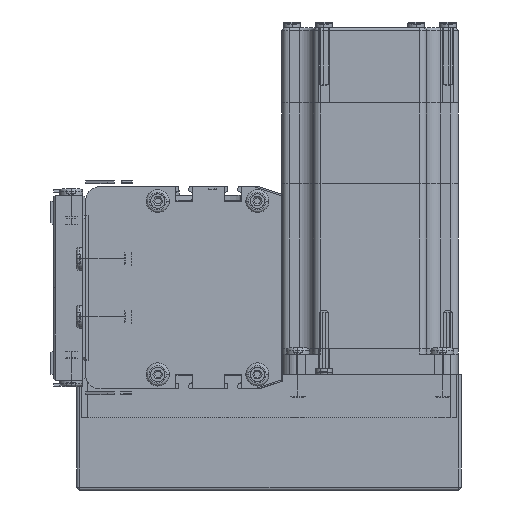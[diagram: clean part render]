
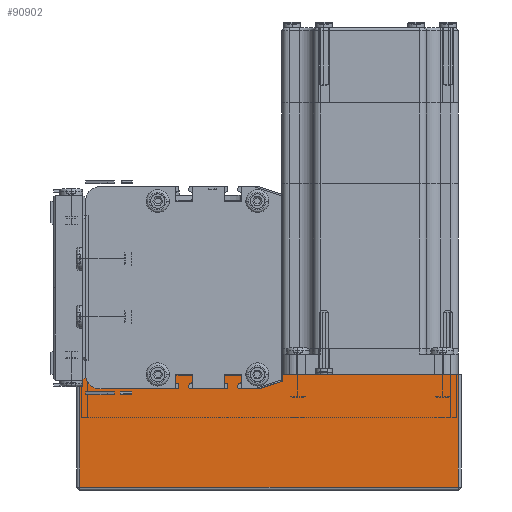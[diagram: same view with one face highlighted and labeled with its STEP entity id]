
A CAD part, left-side view. The second image highlights one B-rep face of the part: STEP entity #90902.
In plain terms, the highlighted planar face has unit normal (-1, 0, 0) as drawn and (0, 1, 0) by its records, which use the part's own axes.
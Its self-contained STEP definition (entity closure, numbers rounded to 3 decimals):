
#81000 = VERTEX_POINT ( 'NONE', #121553 ) ;
#82250 = VERTEX_POINT ( 'NONE', #122070 ) ;
#82780 = EDGE_CURVE ( 'NONE', #82250, #81000, #122357, .T. ) ;
#87593 = VERTEX_POINT ( 'NONE', #124137 ) ;
#88638 = EDGE_LOOP ( 'NONE', ( #90581, #90712, #91588, #91618 ) ) ;
#90294 = EDGE_CURVE ( 'NONE', #81000, #91045, #152079, .T. ) ;
#90302 = EDGE_CURVE ( 'NONE', #91045, #87593, #152094, .T. ) ;
#90555 = EDGE_CURVE ( 'NONE', #87593, #82250, #152123, .T. ) ;
#90581 = ORIENTED_EDGE ( 'NONE', *, *, #90302, .T. ) ;
#90712 = ORIENTED_EDGE ( 'NONE', *, *, #90555, .T. ) ;
#90902 = ADVANCED_FACE ( 'NONE', ( #152151 ), #152068, .F. ) ;
#91045 = VERTEX_POINT ( 'NONE', #152283 ) ;
#91588 = ORIENTED_EDGE ( 'NONE', *, *, #82780, .T. ) ;
#91618 = ORIENTED_EDGE ( 'NONE', *, *, #90294, .T. ) ;
#121553 = CARTESIAN_POINT ( 'NONE',  ( 1., 62., 0. ) ) ;
#122070 = CARTESIAN_POINT ( 'NONE',  ( 132., 62., 0. ) ) ;
#122354 = DIRECTION ( 'NONE',  ( -1., 0., 0. ) ) ;
#122355 = VECTOR ( 'NONE', #122354, 1000. ) ;
#122356 = CARTESIAN_POINT ( 'NONE',  ( 0., 62., 0. ) ) ;
#122357 = LINE ( 'NONE', #122356, #122355 ) ;
#124137 = CARTESIAN_POINT ( 'NONE',  ( 132., 62., 39. ) ) ;
#152068 = PLANE ( 'NONE',  #152140 ) ;
#152071 = DIRECTION ( 'NONE',  ( 1., 0., 0. ) ) ;
#152072 = VECTOR ( 'NONE', #152071, 1000. ) ;
#152075 = CARTESIAN_POINT ( 'NONE',  ( 0., 62., 39. ) ) ;
#152076 = DIRECTION ( 'NONE',  ( 0., 0., 1. ) ) ;
#152077 = VECTOR ( 'NONE', #152076, 1000. ) ;
#152078 = CARTESIAN_POINT ( 'NONE',  ( 1., 62., 40. ) ) ;
#152079 = LINE ( 'NONE', #152078, #152077 ) ;
#152094 = LINE ( 'NONE', #152075, #152072 ) ;
#152105 = CARTESIAN_POINT ( 'NONE',  ( 132., 62., 40. ) ) ;
#152123 = LINE ( 'NONE', #152105, #152163 ) ;
#152133 = DIRECTION ( 'NONE',  ( 0., 0., -1. ) ) ;
#152134 = DIRECTION ( 'NONE',  ( 0., -1., 0. ) ) ;
#152135 = CARTESIAN_POINT ( 'NONE',  ( 0., 62., 40. ) ) ;
#152140 = AXIS2_PLACEMENT_3D ( 'NONE', #152135, #152134, #152133 ) ;
#152151 = FACE_OUTER_BOUND ( 'NONE', #88638, .T. ) ;
#152162 = DIRECTION ( 'NONE',  ( 0., 0., -1. ) ) ;
#152163 = VECTOR ( 'NONE', #152162, 1000. ) ;
#152283 = CARTESIAN_POINT ( 'NONE',  ( 1., 62., 39. ) ) ;
